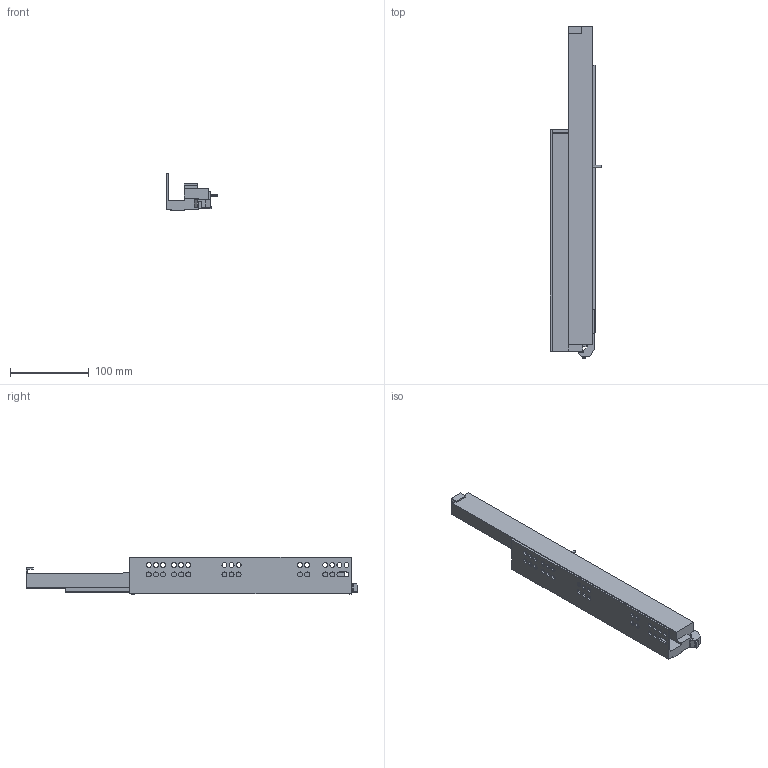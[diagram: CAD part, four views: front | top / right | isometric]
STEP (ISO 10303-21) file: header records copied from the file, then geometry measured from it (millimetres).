
FILE_DESCRIPTION (( 'STEP AP203' ), '1' );
FILE_NAME ('IMOS_Dynapro_Tipmatic_D51_NL_0_LI.STEP', '2013-03-22T12:11:04', ( 'Grass GmbH' ), ( 'Grass GmbH' ), 'SwSTEP 2.0', 'SolidWorks 2012', '' );
FILE_SCHEMA (( 'CONFIG_CONTROL_DESIGN' ));
Length unit declared in the file: millimetre
Products named in the file (1): IMOS_Dynapro_Tipmatic_D51_NL_0_LI
Bounding box: 65.92 x 421.55 x 47.53 mm (x, y, z)
Volume: 395636.5 mm3; surface area: 91402 mm2
Topology: 1 solids, 1 shells, 162 faces, 464 edges, 309 vertices
Faces by surface type: plane 97, cylinder 65
Entity records: 5503 total; most frequent: CARTESIAN_POINT 936, ORIENTED_EDGE 928, DIRECTION 920, EDGE_CURVE 464, VECTOR 334, LINE 334, VERTEX_POINT 309, AXIS2_PLACEMENT_3D 293
